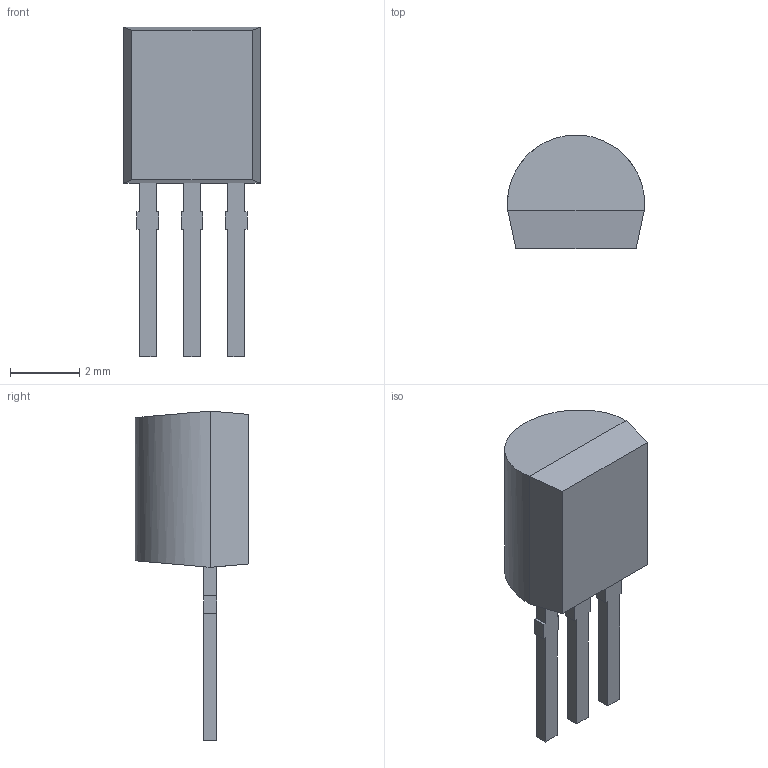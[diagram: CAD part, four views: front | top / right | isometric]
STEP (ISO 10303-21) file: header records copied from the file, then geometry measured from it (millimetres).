
FILE_DESCRIPTION(/* description */ ('FreeCAD Model','CAx-IF Rec.Pracs.---Representation and Presentation of Product Manufacturing Information (PMI)---4.0---2014-10-13'),/* implementation_level */ '2;1');
FILE_NAME(/* name */ '1112.3-A K.step',/* time_stamp */ '2025-08-20T14:40:08+03:00',/* author */ (''),/* organization */ (''),/* preprocessor_version */ 'ST-DEVELOPER v20',/* originating_system */ 'Autodesk Translation Framework v13.20.0.188',/* authorisation */ '');
FILE_SCHEMA (('AP242_MANAGED_MODEL_BASED_3D_ENGINEERING_MIM_LF { 1 0 10303 442 1 1 4 }'));
Length unit declared in the file: millimetre
Products named in the file (1): TO-92_Inline_Narrow
Bounding box: 3.95 x 3.27 x 9.5 mm (x, y, z)
Volume: 50.7 mm3; surface area: 101.6 mm2
Topology: 1 solids, 1 shells, 47 faces, 131 edges, 86 vertices
Faces by surface type: plane 46, cylinder 1
Entity records: 1569 total; most frequent: CARTESIAN_POINT 265, ORIENTED_EDGE 262, DIRECTION 229, EDGE_CURVE 131, LINE 129, VECTOR 129, VERTEX_POINT 86, AXIS2_PLACEMENT_3D 50
